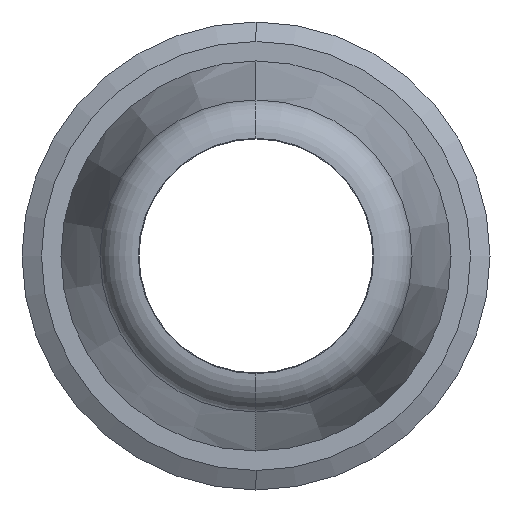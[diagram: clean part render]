
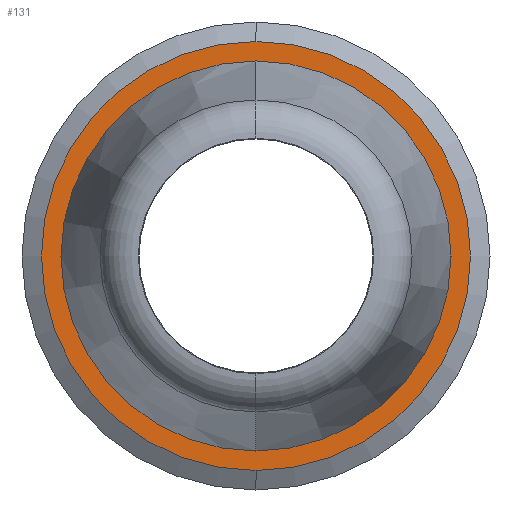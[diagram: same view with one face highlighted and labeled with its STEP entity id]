
A CAD part, left-side view. The second image highlights one B-rep face of the part: STEP entity #131.
In plain terms, the highlighted planar face has unit normal (-1, 0, 0).
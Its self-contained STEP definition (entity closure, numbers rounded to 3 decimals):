
#6 = CARTESIAN_POINT ( 'NONE',  ( 23., 0., 5. ) ) ;
#11 = AXIS2_PLACEMENT_3D ( 'NONE', #773, #753, #748 ) ;
#100 = EDGE_LOOP ( 'NONE', ( #816, #902 ) ) ;
#124 = DIRECTION ( 'NONE',  ( -1., 0., 0. ) ) ;
#131 = ADVANCED_FACE ( 'NONE', ( #579, #1059 ), #1032, .T. ) ;
#137 = DIRECTION ( 'NONE',  ( -1., 0., 0. ) ) ;
#183 = CIRCLE ( 'NONE', #647, 5.5 ) ;
#201 = VERTEX_POINT ( 'NONE', #930 ) ;
#207 = DIRECTION ( 'NONE',  ( -1., 0., 0. ) ) ;
#211 = AXIS2_PLACEMENT_3D ( 'NONE', #954, #410, #1046 ) ;
#214 = EDGE_CURVE ( 'NONE', #631, #201, #183, .T. ) ;
#228 = CARTESIAN_POINT ( 'NONE',  ( 23., 0., 0. ) ) ;
#370 = EDGE_LOOP ( 'NONE', ( #680, #1034 ) ) ;
#410 = DIRECTION ( 'NONE',  ( -1., 0., 0. ) ) ;
#454 = EDGE_CURVE ( 'NONE', #643, #618, #932, .T. ) ;
#473 = CIRCLE ( 'NONE', #211, 5. ) ;
#495 = CARTESIAN_POINT ( 'NONE',  ( 23., 0., 0. ) ) ;
#579 = FACE_OUTER_BOUND ( 'NONE', #100, .T. ) ;
#615 = CARTESIAN_POINT ( 'NONE',  ( 23., 0., -5. ) ) ;
#618 = VERTEX_POINT ( 'NONE', #615 ) ;
#631 = VERTEX_POINT ( 'NONE', #1130 ) ;
#643 = VERTEX_POINT ( 'NONE', #6 ) ;
#647 = AXIS2_PLACEMENT_3D ( 'NONE', #228, #124, #658 ) ;
#658 = DIRECTION ( 'NONE',  ( 0., 0., 1. ) ) ;
#666 = CARTESIAN_POINT ( 'NONE',  ( 23., 0., 0. ) ) ;
#680 = ORIENTED_EDGE ( 'NONE', *, *, #454, .F. ) ;
#705 = EDGE_CURVE ( 'NONE', #201, #631, #957, .T. ) ;
#748 = DIRECTION ( 'NONE',  ( 0., 0., 1. ) ) ;
#753 = DIRECTION ( 'NONE',  ( -1., 0., 0. ) ) ;
#767 = EDGE_CURVE ( 'NONE', #618, #643, #473, .T. ) ;
#773 = CARTESIAN_POINT ( 'NONE',  ( 23., -5., 0. ) ) ;
#816 = ORIENTED_EDGE ( 'NONE', *, *, #214, .T. ) ;
#875 = AXIS2_PLACEMENT_3D ( 'NONE', #666, #137, #1114 ) ;
#902 = ORIENTED_EDGE ( 'NONE', *, *, #705, .T. ) ;
#930 = CARTESIAN_POINT ( 'NONE',  ( 23., 0., 5.5 ) ) ;
#932 = CIRCLE ( 'NONE', #875, 5. ) ;
#954 = CARTESIAN_POINT ( 'NONE',  ( 23., 0., 0. ) ) ;
#957 = CIRCLE ( 'NONE', #1085, 5.5 ) ;
#1032 = PLANE ( 'NONE',  #11 ) ;
#1034 = ORIENTED_EDGE ( 'NONE', *, *, #767, .F. ) ;
#1046 = DIRECTION ( 'NONE',  ( 0., 0., 1. ) ) ;
#1059 = FACE_BOUND ( 'NONE', #370, .T. ) ;
#1085 = AXIS2_PLACEMENT_3D ( 'NONE', #495, #207, #1133 ) ;
#1114 = DIRECTION ( 'NONE',  ( 0., 0., 1. ) ) ;
#1130 = CARTESIAN_POINT ( 'NONE',  ( 23., 0., -5.5 ) ) ;
#1133 = DIRECTION ( 'NONE',  ( 0., 0., 1. ) ) ;
